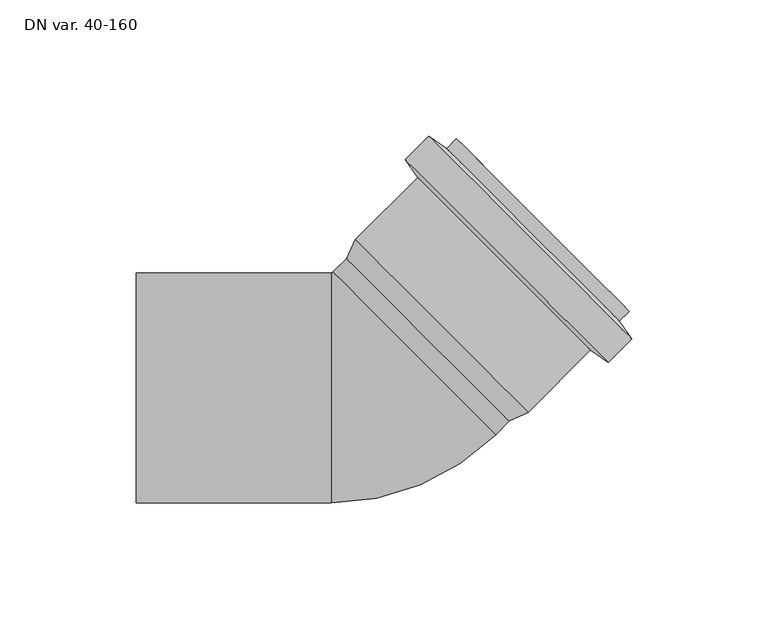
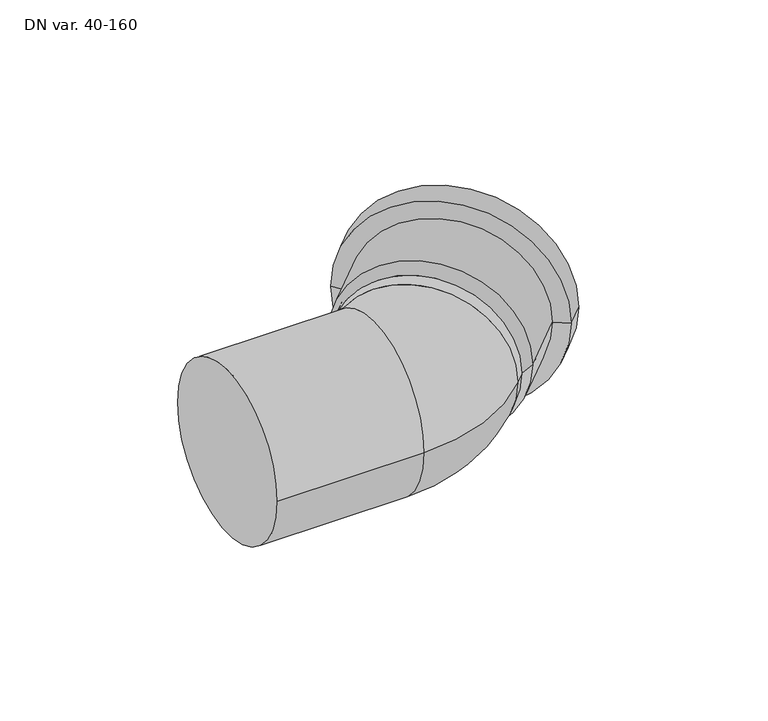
"""IFC4 building model written with IfcOpenShell, lengths in millimetres: pipe fitting geometry, PIF_Master 3+ bend-sh_Pipelife : DN var. 40-160."""

from ifc_helpers import new_model, si_unit, point, frame, origin, place, context, project, spatial, polyline, circle_curve, ellipse_curve, trimmed, source, transform, mapped, element, save
from ifc_brep_helpers import plane_surface, cylinder_surface, revolved_surface, advanced_brep


def dn_var_40_160_c1c38faa(model_context):
    return source(origin(), model_context, "Body", "AdvancedBrep", [
        advanced_brep(
        [(-12.1622366, 47.5175757, 0.0), (47.5175757, -12.1622366, 0.0), (89.6611399, 29.9813275, 0.0), (29.9813275, 89.6611399, 0.0), (-8.9495385, 54.4072291, 0.0), (54.4072291, -8.9495385, 0.0), (13.9300036, 77.2867712, 0.0), (77.2867712, 13.9300036, 0.0), (9.3434085, 83.8371079, 0.0), (83.8371079, 9.3434085, 0.0), (17.9862686, 92.479968, 0.0), (92.479968, 17.9862686, 0.0), (24.5366053, 87.8933729, 0.0), (87.8933729, 24.5366053, 0.0), (28.1428499, 91.4996175, 0.0), (91.4996175, 28.1428499, 0.0)],
        [
            (0, 1, circle_curve(frame((17.6776695, 17.6776695, 0.0), z_axis=(-0.7071067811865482, -0.707106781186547, 0.0), x_axis=(0.7071067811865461, -0.7071067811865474, 0.0)), 42.2)),
            (1, 2),
            (2, 3, circle_curve(frame((59.8212337, 59.8212337, 0.0), z_axis=(0.7071067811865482, 0.707106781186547, 0.0), x_axis=(0.7071067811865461, -0.7071067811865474, 0.0)), 42.2)),
            (3, 0),
            (1, 0, circle_curve(frame((17.6776695, 17.6776695, 0.0), z_axis=(-0.7071067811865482, -0.707106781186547, 0.0), x_axis=(0.7071067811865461, -0.7071067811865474, 0.0)), 42.2)),
            (3, 2, circle_curve(frame((59.8212337, 59.8212337, 0.0), z_axis=(0.7071067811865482, 0.707106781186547, 0.0), x_axis=(0.7071067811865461, -0.7071067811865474, 0.0)), 42.2)),
            (4, 5, circle_curve(frame((22.7288453, 22.7288453, 0.0), z_axis=(-0.7071067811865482, -0.707106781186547, 0.0), x_axis=(0.7071067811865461, -0.7071067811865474, 0.0)), 44.8)),
            (5, 1),
            (0, 4),
            (5, 4, circle_curve(frame((22.7288453, 22.7288453, 0.0), z_axis=(-0.7071067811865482, -0.707106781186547, 0.0), x_axis=(0.7071067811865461, -0.7071067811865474, 0.0)), 44.8)),
            (6, 7, circle_curve(frame((45.6083874, 45.6083874, 0.0), z_axis=(-0.7071067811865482, -0.707106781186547, 0.0), x_axis=(0.7071067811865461, -0.7071067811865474, 0.0)), 44.8)),
            (7, 5),
            (4, 6),
            (7, 6, circle_curve(frame((45.6083874, 45.6083874, 0.0), z_axis=(-0.7071067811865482, -0.707106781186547, 0.0), x_axis=(0.7071067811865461, -0.7071067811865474, 0.0)), 44.8)),
            (8, 9, circle_curve(frame((46.5902582, 46.5902582, 0.0), z_axis=(-0.7071067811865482, -0.707106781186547, 0.0), x_axis=(0.7071067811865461, -0.7071067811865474, 0.0)), 52.675)),
            (9, 7),
            (6, 8),
            (9, 8, circle_curve(frame((46.5902582, 46.5902582, 0.0), z_axis=(-0.7071067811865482, -0.707106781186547, 0.0), x_axis=(0.7071067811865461, -0.7071067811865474, 0.0)), 52.675)),
            (10, 11, circle_curve(frame((55.2331183, 55.2331183, 0.0), z_axis=(-0.7071067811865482, -0.707106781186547, 0.0), x_axis=(0.7071067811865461, -0.7071067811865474, 0.0)), 52.675)),
            (11, 9),
            (8, 10),
            (11, 10, circle_curve(frame((55.2331183, 55.2331183, 0.0), z_axis=(-0.7071067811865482, -0.707106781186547, 0.0), x_axis=(0.7071067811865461, -0.7071067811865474, 0.0)), 52.675)),
            (12, 13, circle_curve(frame((56.2149891, 56.2149891, 0.0), z_axis=(-0.7071067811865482, -0.707106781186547, 0.0), x_axis=(0.7071067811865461, -0.7071067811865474, 0.0)), 44.8)),
            (13, 11),
            (10, 12),
            (13, 12, circle_curve(frame((56.2149891, 56.2149891, 0.0), z_axis=(-0.7071067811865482, -0.707106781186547, 0.0), x_axis=(0.7071067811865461, -0.7071067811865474, 0.0)), 44.8)),
            (14, 15, circle_curve(frame((59.8212337, 59.8212337, 0.0), z_axis=(-0.7071067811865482, -0.707106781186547, 0.0), x_axis=(0.7071067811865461, -0.7071067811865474, 0.0)), 44.8)),
            (15, 13),
            (12, 14),
            (15, 14, circle_curve(frame((59.8212337, 59.8212337, 0.0), z_axis=(-0.7071067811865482, -0.707106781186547, 0.0), x_axis=(0.7071067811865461, -0.7071067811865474, 0.0)), 44.8)),
            (2, 15),
            (14, 3),
        ],
        [
            revolved_surface(polyline([(89.66113986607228, 29.98132753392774, 0.0), (47.51757566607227, -12.162236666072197, 0.0)]), (66.8923015, 66.8923015, 0.0), (0.7071067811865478, 0.7071067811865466, 0.0)),
            revolved_surface(polyline([(47.5175757, -12.1622366, 0.0), (54.4072291, -8.9495385, 0.0)]), (66.8923015, 66.8923015, 0.0), (0.7071067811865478, 0.7071067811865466, 0.0)),
            cylinder_surface(frame((66.8923015, 66.8923015, 0.0), z_axis=(0.7071067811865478, 0.7071067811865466, 0.0), x_axis=(0.7071067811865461, -0.7071067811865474, 0.0)), 44.8),
            revolved_surface(polyline([(77.2867712, 13.9300036, 0.0), (83.8371079, 9.3434085, 0.0)]), (66.8923015, 66.8923015, 0.0), (0.7071067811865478, 0.7071067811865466, 0.0)),
            cylinder_surface(frame((66.8923015, 66.8923015, 0.0), z_axis=(0.7071067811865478, 0.7071067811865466, 0.0), x_axis=(0.7071067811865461, -0.7071067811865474, 0.0)), 52.675),
            revolved_surface(polyline([(92.479968, 17.9862686, 0.0), (87.8933729, 24.5366053, 0.0)]), (66.8923015, 66.8923015, 0.0), (0.7071067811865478, 0.7071067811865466, 0.0)),
            plane_surface(frame((59.8212337, 59.8212337, 0.0), z_axis=(0.7071067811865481, 0.7071067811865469, 0.0), x_axis=(0.7071067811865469, -0.7071067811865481, 0.0))),
        ],
        [
            (0, [[1, 2, 3, 4]]),
            (0, [[5, -4, 6, -2]]),
            (1, [[7, 8, -1, 9]]),
            (1, [[10, -9, -5, -8]]),
            (2, [[11, 12, -7, 13]]),
            (2, [[14, -13, -10, -12]]),
            (3, [[15, 16, -11, 17]]),
            (3, [[18, -17, -14, -16]]),
            (4, [[19, 20, -15, 21]]),
            (4, [[22, -21, -18, -20]]),
            (5, [[23, 24, -19, 25]]),
            (5, [[26, -25, -22, -24]]),
            (2, [[27, 28, -23, 29]]),
            (2, [[30, -29, -26, -28]]),
            (6, [[-3, 31, -27, 32]]),
            (6, [[-6, -32, -30, -31]]),
        ],
    ),
        advanced_brep(
        [(-89.4, 42.2, 0.0), (-89.4, -42.2, 0.0), (-17.8940259, -42.2, 0.0), (-17.8940259, 42.2, 0.0), (42.4928932, -17.1869191, 0.0), (-17.1869191, 42.4928932, 0.0), (47.5175757, -12.1622366, 0.0), (17.6776695, 17.6776695, 42.2), (-12.1622366, 47.5175757, 0.0), (17.6776695, 17.6776695, -42.2)],
        [
            (0, 1, circle_curve(frame((-89.4, 0.0, 0.0), z_axis=(1.0, 0.0, 0.0), x_axis=(0.0, 1.0, 0.0)), 42.2)),
            (1, 2),
            (2, 3, circle_curve(frame((-17.8940259, 0.0, 0.0), z_axis=(-1.0, 0.0, 0.0), x_axis=(0.0, 1.0, 0.0)), 42.2)),
            (3, 0),
            (1, 0, circle_curve(frame((-89.4, 0.0, 0.0), z_axis=(1.0, 0.0, 0.0), x_axis=(0.0, 1.0, 0.0)), 42.2)),
            (3, 2, circle_curve(frame((-17.8940259, 0.0, 0.0), z_axis=(-1.0, 0.0, 0.0), x_axis=(0.0, 1.0, 0.0)), 42.2)),
            (2, 4, circle_curve(frame((-17.8940259, 43.2, 0.0), z_axis=(0.0, 0.0, 1.0), x_axis=(0.0, -1.0, 0.0)), 85.4)),
            (4, 5, circle_curve(frame((12.6529871, 12.6529871, 0.0), z_axis=(-0.7071067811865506, -0.7071067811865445, 0.0), x_axis=(-0.7071067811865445, 0.7071067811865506, 0.0)), 42.2)),
            (5, 3, circle_curve(frame((-17.8940259, 43.2, 0.0), z_axis=(0.0, 0.0, -1.0), x_axis=(0.0, -1.0, 0.0)), 1.0)),
            (5, 4, circle_curve(frame((12.6529871, 12.6529871, 0.0), z_axis=(-0.7071067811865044, -0.7071067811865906, 0.0), x_axis=(-0.7071067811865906, 0.7071067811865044, 0.0)), 42.2)),
            (4, 6),
            (6, 7, circle_curve(frame((17.6776695, 17.6776695, 0.0), z_axis=(-0.7071067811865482, -0.707106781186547, 0.0), x_axis=(-0.707106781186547, 0.7071067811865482, 0.0)), 42.2)),
            (7, 8, circle_curve(frame((17.6776695, 17.6776695, 0.0), z_axis=(-0.7071067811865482, -0.707106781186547, 0.0), x_axis=(-0.707106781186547, 0.7071067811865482, 0.0)), 42.2)),
            (8, 5),
            (8, 9, circle_curve(frame((17.6776695, 17.6776695, 0.0), z_axis=(-0.7071067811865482, -0.707106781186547, 0.0), x_axis=(-0.707106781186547, 0.7071067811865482, 0.0)), 42.2)),
            (9, 6, circle_curve(frame((17.6776695, 17.6776695, 0.0), z_axis=(-0.7071067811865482, -0.707106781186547, 0.0), x_axis=(-0.707106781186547, 0.7071067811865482, 0.0)), 42.2)),
        ],
        [
            cylinder_surface(frame((-89.4, 0.0, 0.0), z_axis=(-1.0, 0.0, 0.0), x_axis=(0.0, 1.0, 0.0)), 42.2),
            revolved_surface(trimmed(ellipse_curve(frame((-17.8940259, 0.0, 0.0), z_axis=(-1.0, 0.0, 0.0), x_axis=(0.0, 1.0, 0.0)), 42.2, 42.2), [point((-17.8940259, -42.2, 0.0))], [point((-17.8940259, 42.2, 0.0))], True, "CARTESIAN"), (-17.8940259, 43.2, 0.0), (0.0, 0.0, 1.0)),
            revolved_surface(trimmed(ellipse_curve(frame((-17.8940259, 0.0, 0.0), z_axis=(-1.0, 0.0, 0.0), x_axis=(0.0, 1.0, 0.0)), 42.2, 42.2), [point((-17.8940259, 42.2, 0.0))], [point((-17.8940259, -42.2, 0.0))], True, "CARTESIAN"), (-17.8940259, 43.2, 0.0), (0.0, 0.0, 1.0)),
            cylinder_surface(frame((12.6529871, 12.6529871, 0.0), z_axis=(-0.7071067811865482, -0.707106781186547, 0.0), x_axis=(-0.707106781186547, 0.7071067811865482, 0.0)), 42.2),
            plane_surface(frame((-89.4, 0.0, 0.0), z_axis=(-1.0, 0.0, 0.0), x_axis=(0.0, 0.0, 1.0))),
            plane_surface(frame((17.6776695, 17.6776695, -42.2), z_axis=(0.7071067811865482, 0.707106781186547, 0.0), x_axis=(0.707106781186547, -0.7071067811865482, 0.0))),
        ],
        [
            (0, [[1, 2, 3, 4]]),
            (0, [[5, -4, 6, -2]]),
            (1, [[-3, 7, 8, 9]]),
            (2, [[-6, -9, 10, -7]]),
            (3, [[-8, 11, 12, 13, 14]]),
            (3, [[-10, -14, 15, 16, -11]]),
            (4, [[-1, -5]]),
            (5, [[-12, -16, -15, -13]]),
        ],
    ),
    ])


if __name__ == "__main__":
    model = new_model("IFC4")
    model_context = context("Model", 3, world=origin())
    ifc_project = project(units=[si_unit("LENGTHUNIT", "METRE", prefix="MILLI")], contexts=[model_context])
    site = spatial("IfcSite", under=ifc_project)
    building = spatial("IfcBuilding", under=site)
    placement = place(None, origin())
    dn_var_40_160_shape = dn_var_40_160_c1c38faa(model_context)
    element("IfcPipeFitting", 1, ObjectType="PIF_Master 3+ bend-sh_Pipelife : DN var. 40-160", at=placement, inside=building, context=model_context, shape_type="MappedRepresentation", body=[
        mapped(dn_var_40_160_shape, transform((0.0, 0.0, 0.0), x_axis=(1.0, 0.0, 0.0), y_axis=(0.0, 1.0, 0.0), z_axis=(0.0, 0.0, 1.0))),
    ])
    save(model, "model.ifc")
